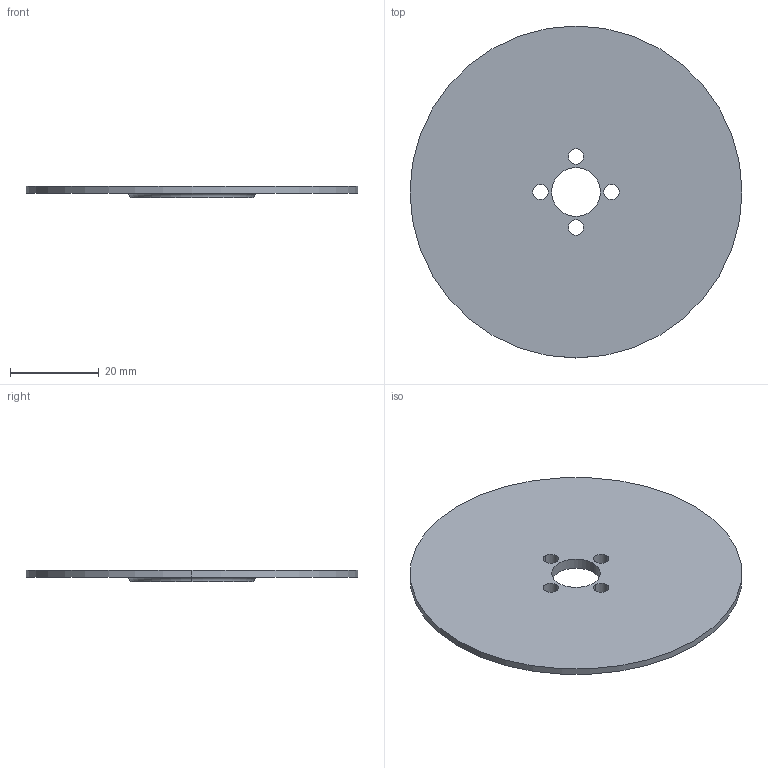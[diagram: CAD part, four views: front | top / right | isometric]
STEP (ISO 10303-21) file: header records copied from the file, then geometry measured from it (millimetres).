
FILE_DESCRIPTION(('CATIA V5 STEP Exchange','CAx-IF Rec.Pracs.--- Model Styling and Organization---1.4--- 2014-01-23','CAx-IF Rec.Pracs.---3D Tessellated Data Validation Properties---0.5---2014-09-14'),'2;1');
FILE_NAME('D:\GrabCAD\I+D\SERIE_LEXA\EKOT-1360-170921A-LEXA_WAIST_SUPPORT\FAB\FAB_C\PDF\MAQUINADO\1360.000.012.000.ARANDELA.stp','2024-11-01T00:03:03+00:00',('none'),('none'),'CATIA Version 5-6 Release 2018 SP6','CATIA V5 STEP AP242','none');
FILE_SCHEMA(('AP242_MANAGED_MODEL_BASED_3D_ENGINEERING_MIM_LF {1 0 10303 442 1 1 4}'));
Length unit declared in the file: millimetre
Products named in the file (1): 1360.000.012.000.ARANDELA
Bounding box: 75 x 75 x 2.5 mm (x, y, z)
Volume: 6927.9 mm3; surface area: 9169.1 mm2
Topology: 1 solids, 1 shells, 17 faces, 42 edges, 28 vertices
Faces by surface type: cylinder 12, plane 3, torus 2
Entity records: 536 total; most frequent: ORIENTED_EDGE 84, CARTESIAN_POINT 82, DIRECTION 64, AXIS2_PLACEMENT_3D 42, EDGE_CURVE 42, CIRCLE 30, EDGE_LOOP 28, VERTEX_POINT 28
